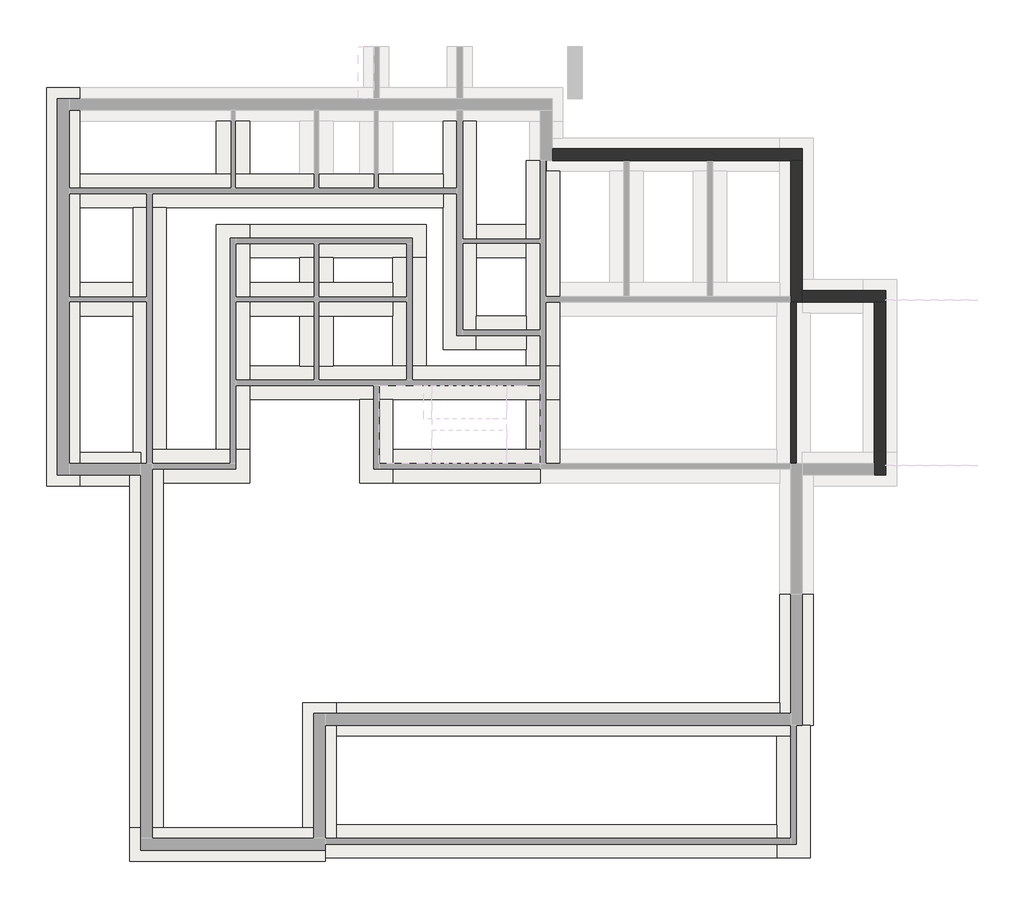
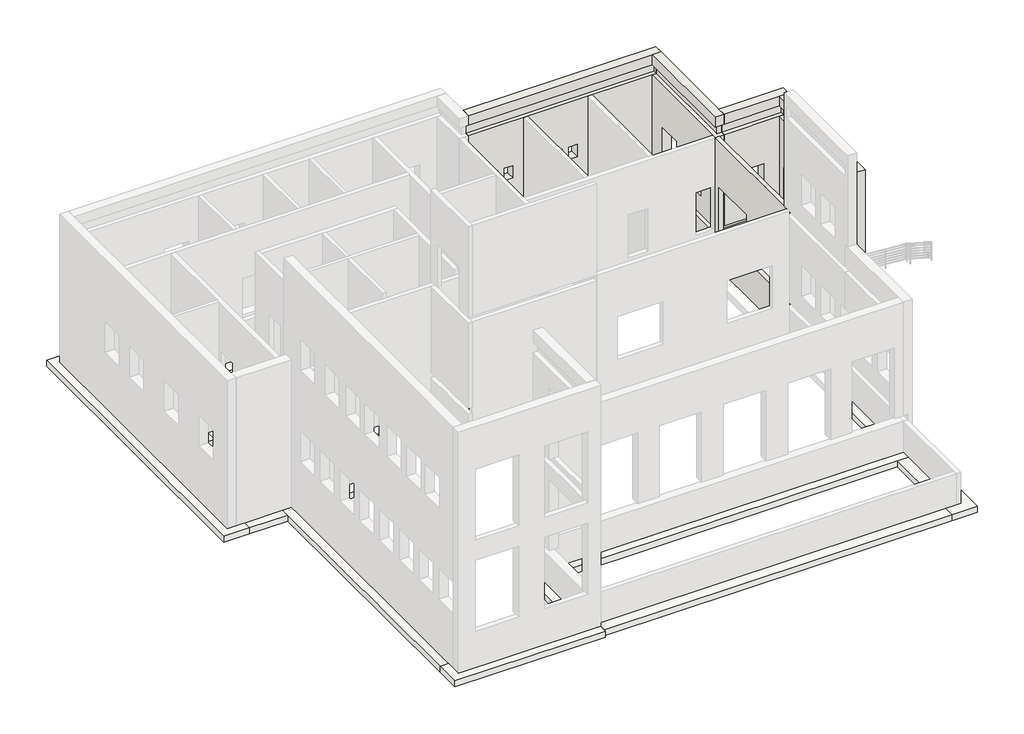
# One storey, part 3 of 5: 26 footings, 5 walls.
"""IFC4 building model written with IfcOpenShell, lengths in millimetres."""

from ifc_helpers import new_model, si_unit, frame, origin, place, context, project, spatial, polyline, outline, extrude, faceted_brep, element, save

model = new_model("IFC4")

# Units and contexts
model_context = context("Model", 3, world=origin())
ifc_project = project(units=[si_unit("LENGTHUNIT", "METRE", prefix="MILLI")], contexts=[model_context])

# Site, building, storey
site = spatial("IfcSite", under=ifc_project)
building = spatial("IfcBuilding", under=site)
storey = spatial("IfcBuildingStorey", under=building, Name="Фундамент", Elevation=-1800.0)

# Footings
placement = place(None, origin())
element("IfcFooting", 1, ObjectType="Опорная пята - 1200 x 300", at=placement, inside=storey, context=model_context, shape_type="Brep", body=[
    faceted_brep([(8252.7882356, 1082.3976828, -1800.0), (9452.7882356, 1082.3976828, -1800.0), (9452.7882356, 1082.3976828, -2100.0), (8252.7882356, 1082.3976828, -2100.0), (9452.7882356, -3627.6023172, -1800.0), (9342.7882356, -3627.6023172, -1800.0), (8794.5092705, -3627.6023172, -1800.0), (8252.7882356, -3627.6023172, -1800.0), (8252.7882356, -3627.6023172, -2100.0), (8794.5092705, -3627.6023172, -2100.0), (9342.7882356, -3627.6023172, -2100.0), (9452.7882356, -3627.6023172, -2100.0), (8252.7882356, -2817.6023172, -1800.0), (8252.7882356, -2817.6023172, -2100.0)], [[[0, 1, 2, 3]], [[4, 5, 6, 7, 8, 9, 10, 11]], [[0, 12, 7, 6, 5, 4, 1]], [[2, 1, 4, 11]], [[3, 2, 11, 10, 9, 8, 13]], [[0, 3, 13, 8, 7, 12]]]),
])
element("IfcFooting", 2, ObjectType="Опорная пята - 1200 x 300", at=placement, inside=storey, context=model_context, shape_type="Brep", body=[
    faceted_brep([(-16917.2117644, 4982.3976828, -1800.0), (-16917.2117644, 6182.3976828, -1800.0), (-16917.2117644, 11092.3976828, -1800.0), (-16917.2117644, 12292.3976828, -1800.0), (-16917.2117644, 14992.3976828, -1800.0), (-16917.2117644, 16192.3976828, -1800.0), (-16917.2117644, 18102.3976828, -1800.0), (-16917.2117644, 19302.3976828, -1800.0), (-18117.2117644, 19302.3976828, -1800.0), (-18117.2117644, 4982.3976828, -1800.0), (-18117.2117644, 4982.3976828, -2100.0), (-18117.2117644, 19302.3976828, -2100.0), (-16917.2117644, 4982.3976828, -2100.0), (-16917.2117644, 19302.3976828, -2100.0), (-16917.2117644, 18102.3976828, -2100.0), (-16917.2117644, 16192.3976828, -2100.0), (-16917.2117644, 14992.3976828, -2100.0), (-16917.2117644, 12292.3976828, -2100.0), (-16917.2117644, 11092.3976828, -2100.0), (-16917.2117644, 6182.3976828, -2100.0)], [[[0, 1, 2, 3, 4, 5, 6, 7, 8, 9]], [[10, 9, 8, 11]], [[12, 10, 11, 13, 14, 15, 16, 17, 18, 19]], [[0, 12, 19, 18, 17, 16, 15, 14, 13, 7, 6, 5, 4, 3, 2, 1]], [[8, 7, 13, 11]], [[0, 9, 10, 12]]]),
])
element("IfcFooting", 3, ObjectType="Опорная пята - 1200 x 300", at=placement, inside=storey, context=model_context, shape_type="Brep", body=[
    faceted_brep([(-8087.2117644, -7317.6023172, -1800.0), (-8087.2117644, -7707.6023172, -1800.0), (-8087.2117644, -8407.6023172, -1800.0), (-8087.2117644, -8517.6023172, -1800.0), (-8087.2117644, -8517.6023172, -2100.0), (-8087.2117644, -8407.6023172, -2100.0), (-8087.2117644, -7707.6023172, -2100.0), (-8087.2117644, -7317.6023172, -2100.0), (-8897.2117644, -7317.6023172, -1800.0), (-13917.2117644, -7317.6023172, -1800.0), (-15117.2117644, -7317.6023172, -1800.0), (-15117.2117644, -8517.6023172, -1800.0), (-15117.2117644, -8517.6023172, -2100.0), (-15117.2117644, -7317.6023172, -2100.0), (-13917.2117644, -7317.6023172, -2100.0), (-8897.2117644, -7317.6023172, -2100.0)], [[[0, 1, 2, 3, 4, 5, 6, 7]], [[0, 8, 9, 10, 11, 3, 2, 1]], [[4, 3, 11, 12]], [[7, 6, 5, 4, 12, 13, 14, 15]], [[0, 7, 15, 14, 13, 10, 9, 8]], [[11, 10, 13, 12]]]),
])
element("IfcFooting", 4, ObjectType="Опорная пята - 1200 x 300", at=placement, inside=storey, context=model_context, shape_type="Brep", body=[
    faceted_brep([(-15117.2117644, 5792.3976828, -2100.0), (-15117.2117644, 5792.3976828, -1800.0), (-14727.2117644, 5792.3976828, -1800.0), (-14307.2117644, 5792.3976828, -1800.0), (-13917.2117644, 5792.3976828, -1800.0), (-13917.2117644, 5792.3976828, -2100.0), (-14307.2117644, 5792.3976828, -2100.0), (-14727.2117644, 5792.3976828, -2100.0), (-15117.2117644, 4982.3976828, -1800.0), (-15117.2117644, -7317.6023172, -1800.0), (-13917.2117644, -7317.6023172, -1800.0), (-13917.2117644, 5092.3976828, -1800.0), (-15117.2117644, 4982.3976828, -2100.0), (-15117.2117644, -7317.6023172, -2100.0), (-13917.2117644, 5092.3976828, -2100.0), (-13917.2117644, -7317.6023172, -2100.0)], [[[0, 1, 2, 3, 4, 5, 6, 7]], [[4, 3, 2, 1, 8, 9, 10, 11]], [[1, 0, 12, 13, 9, 8]], [[0, 7, 6, 5, 14, 15, 13, 12]], [[5, 4, 11, 10, 15, 14]], [[10, 9, 13, 15]]]),
])
element("IfcFooting", 5, ObjectType="Опорная пята - 1200 x 300", at=placement, inside=storey, context=model_context, shape_type="Brep", body=[
    faceted_brep([(-14727.2117644, 6182.3976828, -2100.0), (-14727.2117644, 6182.3976828, -1800.0), (-14727.2117644, 5792.3976828, -1800.0), (-14727.2117644, 5792.3976828, -2100.0), (-15007.2117644, 6182.3976828, -1800.0), (-16917.2117644, 6182.3976828, -1800.0), (-16917.2117644, 4982.3976828, -1800.0), (-15117.2117644, 4982.3976828, -1800.0), (-15117.2117644, 5792.3976828, -1800.0), (-16917.2117644, 4982.3976828, -2100.0), (-15117.2117644, 4982.3976828, -2100.0), (-16917.2117644, 6182.3976828, -2100.0), (-15007.2117644, 6182.3976828, -2100.0), (-15117.2117644, 5792.3976828, -2100.0)], [[[0, 1, 2, 3]], [[1, 4, 5, 6, 7, 8, 2]], [[6, 9, 10, 7]], [[11, 12, 0, 3, 13, 10, 9]], [[1, 0, 12, 11, 5, 4]], [[6, 5, 11, 9]], [[8, 13, 3, 2]], [[13, 8, 7, 10]]]),
])
element("IfcFooting", 6, ObjectType="Опорная пята - 1200 x 300", at=placement, inside=storey, context=model_context, shape_type="Brep", body=[
    faceted_brep([(-14307.2117644, 6292.3976828, -1800.0), (-14307.2117644, 6292.3976828, -2100.0), (-14307.2117644, 5792.3976828, -2100.0), (-14307.2117644, 5792.3976828, -1800.0), (-10807.2117644, 6292.3976828, -1800.0), (-12007.2117644, 6292.3976828, -1800.0), (-13807.2117644, 6292.3976828, -1800.0), (-13917.2117644, 5792.3976828, -1800.0), (-13917.2117644, 5092.3976828, -1800.0), (-10807.2117644, 5092.3976828, -1800.0), (-10807.2117644, 6292.3976828, -2100.0), (-12007.2117644, 6292.3976828, -2100.0), (-13807.2117644, 6292.3976828, -2100.0), (-10807.2117644, 5092.3976828, -2100.0), (-13917.2117644, 5092.3976828, -2100.0), (-13917.2117644, 5792.3976828, -2100.0)], [[[0, 1, 2, 3]], [[4, 5, 6, 0, 3, 7, 8, 9]], [[1, 0, 6, 5, 4, 10, 11, 12]], [[1, 12, 11, 10, 13, 14, 15, 2]], [[13, 9, 8, 14]], [[4, 9, 13, 10]], [[15, 7, 3, 2]], [[7, 15, 14, 8]]]),
])
element("IfcFooting", 7, ObjectType="Опорная пята - 1200 x 300", at=placement, inside=storey, context=model_context, shape_type="Brep", body=[
    faceted_brep([(-10807.2117644, 14392.3976828, -1800.0), (-12007.2117644, 14392.3976828, -1800.0), (-12007.2117644, 6292.3976828, -1800.0), (-10807.2117644, 6292.3976828, -1800.0), (-10807.2117644, 8092.3976828, -1800.0), (-10807.2117644, 9292.3976828, -1800.0), (-10807.2117644, 11092.3976828, -1800.0), (-10807.2117644, 12292.3976828, -1800.0), (-10807.2117644, 13192.3976828, -1800.0), (-12007.2117644, 14392.3976828, -2100.0), (-12007.2117644, 6292.3976828, -2100.0), (-10807.2117644, 14392.3976828, -2100.0), (-10807.2117644, 13192.3976828, -2100.0), (-10807.2117644, 12292.3976828, -2100.0), (-10807.2117644, 11092.3976828, -2100.0), (-10807.2117644, 9292.3976828, -2100.0), (-10807.2117644, 8092.3976828, -2100.0), (-10807.2117644, 6292.3976828, -2100.0)], [[[0, 1, 2, 3, 4, 5, 6, 7, 8]], [[1, 9, 10, 2]], [[9, 11, 12, 13, 14, 15, 16, 17, 10]], [[11, 0, 8, 7, 6, 5, 4, 3, 17, 16, 15, 14, 13, 12]], [[1, 0, 11, 9]], [[3, 2, 10, 17]]]),
])
element("IfcFooting", 8, ObjectType="Опорная пята - 1200 x 300", at=placement, inside=storey, context=model_context, shape_type="Brep", body=[
    faceted_brep([(-10807.2117644, 8092.3976828, -1800.0), (-6857.2117644, 8092.3976828, -1800.0), (-5657.2117644, 8092.3976828, -1800.0), (-857.2117644, 8092.3976828, -1800.0), (342.7882356, 8092.3976828, -1800.0), (342.7882356, 9292.3976828, -1800.0), (-857.2117644, 9292.3976828, -1800.0), (-4457.2117644, 9292.3976828, -1800.0), (-5657.2117644, 9292.3976828, -1800.0), (-7807.2117644, 9292.3976828, -1800.0), (-9007.2117644, 9292.3976828, -1800.0), (-10807.2117644, 9292.3976828, -1800.0), (-10807.2117644, 9292.3976828, -2100.0), (342.7882356, 9292.3976828, -2100.0), (-857.2117644, 9292.3976828, -2100.0), (-4457.2117644, 9292.3976828, -2100.0), (-5657.2117644, 9292.3976828, -2100.0), (-7807.2117644, 9292.3976828, -2100.0), (-9007.2117644, 9292.3976828, -2100.0), (-10807.2117644, 8092.3976828, -2100.0), (342.7882356, 8092.3976828, -2100.0), (-857.2117644, 8092.3976828, -2100.0), (-5657.2117644, 8092.3976828, -2100.0), (-6857.2117644, 8092.3976828, -2100.0)], [[[0, 1, 2, 3, 4, 5, 6, 7, 8, 9, 10, 11]], [[12, 11, 10, 9, 8, 7, 6, 5, 13, 14, 15, 16, 17, 18]], [[19, 12, 18, 17, 16, 15, 14, 13, 20, 21, 22, 23]], [[0, 19, 23, 22, 21, 20, 4, 3, 2, 1]], [[0, 11, 12, 19]], [[5, 4, 20, 13]]]),
])
element("IfcFooting", 9, ObjectType="Опорная пята - 1200 x 300", at=placement, inside=storey, context=model_context, shape_type="Brep", body=[
    faceted_brep([(-6857.2117644, 8092.3976828, -1800.0), (-6857.2117644, 5092.3976828, -1800.0), (-5657.2117644, 5092.3976828, -1800.0), (-5657.2117644, 6292.3976828, -1800.0), (-5657.2117644, 8092.3976828, -1800.0), (-5657.2117644, 8092.3976828, -2100.0), (-5657.2117644, 5092.3976828, -2100.0), (-5657.2117644, 6292.3976828, -2100.0), (-6857.2117644, 8092.3976828, -2100.0), (-6857.2117644, 5092.3976828, -2100.0)], [[[0, 1, 2, 3, 4]], [[5, 4, 3, 2, 6, 7]], [[8, 5, 7, 6, 9]], [[0, 8, 9, 1]], [[0, 4, 5, 8]], [[2, 1, 9, 6]]]),
])
element("IfcFooting", 10, ObjectType="Опорная пята - 1200 x 300", at=placement, inside=storey, context=model_context, shape_type="Brep", body=[
    faceted_brep([(-357.2117644, 6292.3976828, -2100.0), (-357.2117644, 6292.3976828, -1800.0), (-357.2117644, 5792.3976828, -1800.0), (-357.2117644, 5092.3976828, -1800.0), (-357.2117644, 5092.3976828, -2100.0), (-357.2117644, 5792.3976828, -2100.0), (-857.2117644, 6292.3976828, -1800.0), (-5657.2117644, 6292.3976828, -1800.0), (-5657.2117644, 5092.3976828, -1800.0), (-857.2117644, 6292.3976828, -2100.0), (-5657.2117644, 6292.3976828, -2100.0), (-5657.2117644, 5092.3976828, -2100.0)], [[[0, 1, 2, 3, 4, 5]], [[3, 2, 1, 6, 7, 8]], [[1, 0, 9, 10, 7, 6]], [[0, 5, 4, 11, 10, 9]], [[4, 3, 8, 11]], [[8, 7, 10, 11]]]),
])
element("IfcFooting", 11, ObjectType="Опорная пята - 1200 x 300", at=placement, inside=storey, context=model_context, shape_type="Brep", body=[
    faceted_brep([(342.7882356, 5792.3976828, -2100.0), (342.7882356, 5792.3976828, -1800.0), (-157.2117644, 5792.3976828, -1800.0), (-357.2117644, 5792.3976828, -1800.0), (-357.2117644, 5792.3976828, -2100.0), (342.7882356, 6292.3976828, -1800.0), (342.7882356, 8092.3976828, -1800.0), (-857.2117644, 8092.3976828, -1800.0), (-857.2117644, 6292.3976828, -1800.0), (-357.2117644, 6292.3976828, -1800.0), (-857.2117644, 8092.3976828, -2100.0), (-857.2117644, 6292.3976828, -2100.0), (342.7882356, 8092.3976828, -2100.0), (342.7882356, 6292.3976828, -2100.0), (-357.2117644, 6292.3976828, -2100.0)], [[[0, 1, 2, 3, 4]], [[1, 5, 6, 7, 8, 9, 3, 2]], [[7, 10, 11, 8]], [[12, 13, 0, 4, 14, 11, 10]], [[1, 0, 13, 12, 6, 5]], [[7, 6, 12, 10]], [[9, 14, 4, 3]], [[14, 9, 8, 11]]]),
    faceted_brep([(-857.2117644, 16692.3976828, -2100.0), (-857.2117644, 16692.3976828, -1800.0), (-747.2117644, 16692.3976828, -1800.0), (-357.2117644, 16692.3976828, -1800.0), (-157.2117644, 16692.3976828, -1800.0), (-149.2724245, 16692.3976828, -1800.0), (-149.2724245, 16692.3976828, -2100.0), (-747.2117644, 16692.3976828, -2100.0), (-857.2117644, 14392.3976828, -1800.0), (-857.2117644, 13192.3976828, -1800.0), (-857.2117644, 11092.3976828, -1800.0), (-857.2117644, 9892.3976828, -1800.0), (-857.2117644, 9292.3976828, -1800.0), (342.7882356, 9292.3976828, -1800.0), (342.7882356, 11092.3976828, -1800.0), (342.7882356, 12292.3976828, -1800.0), (342.7882356, 16302.3976828, -1800.0), (-153.0993647, 16302.3976828, -1800.0), (-857.2117644, 14392.3976828, -2100.0), (-857.2117644, 13192.3976828, -2100.0), (-857.2117644, 11092.3976828, -2100.0), (-857.2117644, 9892.3976828, -2100.0), (-857.2117644, 9292.3976828, -2100.0), (-153.0993647, 16302.3976828, -2100.0), (342.7882356, 16302.3976828, -2100.0), (342.7882356, 12292.3976828, -2100.0), (342.7882356, 11092.3976828, -2100.0), (342.7882356, 9292.3976828, -2100.0)], [[[0, 1, 2, 3, 4, 5, 6, 7]], [[5, 4, 3, 2, 1, 8, 9, 10, 11, 12, 13, 14, 15, 16, 17]], [[1, 0, 18, 19, 20, 21, 22, 12, 11, 10, 9, 8]], [[0, 7, 6, 23, 24, 25, 26, 27, 22, 21, 20, 19, 18]], [[24, 16, 15, 14, 13, 27, 26, 25]], [[23, 17, 16, 24]], [[17, 23, 6, 5]], [[13, 12, 22, 27]]]),
])
element("IfcFooting", 12, ObjectType="Опорная пята - 1200 x 300", at=placement, inside=storey, context=model_context, shape_type="Brep", body=[
    faceted_brep([(-4457.2117644, 13192.3976828, -1800.0), (-4457.2117644, 14392.3976828, -1800.0), (-10807.2117644, 14392.3976828, -1800.0), (-10807.2117644, 13192.3976828, -1800.0), (-9007.2117644, 13192.3976828, -1800.0), (-7807.2117644, 13192.3976828, -1800.0), (-5657.2117644, 13192.3976828, -1800.0), (-4457.2117644, 14392.3976828, -2100.0), (-10807.2117644, 14392.3976828, -2100.0), (-4457.2117644, 13192.3976828, -2100.0), (-5657.2117644, 13192.3976828, -2100.0), (-7807.2117644, 13192.3976828, -2100.0), (-9007.2117644, 13192.3976828, -2100.0), (-10807.2117644, 13192.3976828, -2100.0)], [[[0, 1, 2, 3, 4, 5, 6]], [[1, 7, 8, 2]], [[7, 9, 10, 11, 12, 13, 8]], [[9, 0, 6, 5, 4, 3, 13, 12, 11, 10]], [[1, 0, 9, 7]], [[3, 2, 8, 13]]]),
])
element("IfcFooting", 13, ObjectType="Опорная пята - 1200 x 300", at=placement, inside=storey, context=model_context, shape_type="Brep", body=[
    faceted_brep([(-5657.2117644, 9292.3976828, -1800.0), (-4457.2117644, 9292.3976828, -1800.0), (-4457.2117644, 13192.3976828, -1800.0), (-5657.2117644, 13192.3976828, -1800.0), (-5657.2117644, 12292.3976828, -1800.0), (-5657.2117644, 11092.3976828, -1800.0), (-4457.2117644, 9292.3976828, -2100.0), (-4457.2117644, 13192.3976828, -2100.0), (-5657.2117644, 9292.3976828, -2100.0), (-5657.2117644, 11092.3976828, -2100.0), (-5657.2117644, 12292.3976828, -2100.0), (-5657.2117644, 13192.3976828, -2100.0)], [[[0, 1, 2, 3, 4, 5]], [[1, 6, 7, 2]], [[6, 8, 9, 10, 11, 7]], [[8, 0, 5, 4, 3, 11, 10, 9]], [[1, 0, 8, 6]], [[3, 2, 7, 11]]]),
])
element("IfcFooting", 14, ObjectType="Опорная пята - 1200 x 300", at=placement, inside=storey, context=model_context, shape_type="Brep", body=[
    faceted_brep([(-14727.2117644, 5792.3976828, -1800.0), (-14727.2117644, 5792.3976828, -2100.0), (-14307.2117644, 5792.3976828, -2100.0), (-14307.2117644, 5792.3976828, -1800.0), (-13807.2117644, 14992.3976828, -1800.0), (-15007.2117644, 14992.3976828, -1800.0), (-15007.2117644, 12292.3976828, -1800.0), (-15007.2117644, 11092.3976828, -1800.0), (-15007.2117644, 6182.3976828, -1800.0), (-14727.2117644, 6182.3976828, -1800.0), (-14307.2117644, 6292.3976828, -1800.0), (-13807.2117644, 6292.3976828, -1800.0), (-15007.2117644, 14992.3976828, -2100.0), (-15007.2117644, 12292.3976828, -2100.0), (-15007.2117644, 11092.3976828, -2100.0), (-15007.2117644, 6182.3976828, -2100.0), (-13807.2117644, 14992.3976828, -2100.0), (-13807.2117644, 6292.3976828, -2100.0), (-14307.2117644, 6292.3976828, -2100.0), (-14727.2117644, 6182.3976828, -2100.0)], [[[0, 1, 2, 3]], [[4, 5, 6, 7, 8, 9, 0, 3, 10, 11]], [[5, 12, 13, 14, 15, 8, 7, 6]], [[12, 16, 17, 18, 2, 1, 19, 15, 14, 13]], [[16, 4, 11, 17]], [[5, 4, 16, 12]], [[9, 19, 1, 0]], [[19, 9, 8, 15]], [[18, 10, 3, 2]], [[10, 18, 17, 11]]]),
])
element("IfcFooting", 15, ObjectType="Опорная пята - 1200 x 300", at=placement, inside=storey, context=model_context, shape_type="Brep", body=[
    faceted_brep([(-16917.2117644, 14992.3976828, -1800.0), (-15007.2117644, 14992.3976828, -1800.0), (-13807.2117644, 14992.3976828, -1800.0), (-3857.2117644, 14992.3976828, -1800.0), (-3857.2117644, 16192.3976828, -1800.0), (-5657.2117644, 16192.3976828, -1800.0), (-6857.2117644, 16192.3976828, -1800.0), (-7807.2117644, 16192.3976828, -1800.0), (-9007.2117644, 16192.3976828, -1800.0), (-10807.2117644, 16192.3976828, -1800.0), (-12007.2117644, 16192.3976828, -1800.0), (-16917.2117644, 16192.3976828, -1800.0), (-16917.2117644, 16192.3976828, -2100.0), (-3857.2117644, 16192.3976828, -2100.0), (-5657.2117644, 16192.3976828, -2100.0), (-6857.2117644, 16192.3976828, -2100.0), (-7807.2117644, 16192.3976828, -2100.0), (-9007.2117644, 16192.3976828, -2100.0), (-10807.2117644, 16192.3976828, -2100.0), (-12007.2117644, 16192.3976828, -2100.0), (-16917.2117644, 14992.3976828, -2100.0), (-3857.2117644, 14992.3976828, -2100.0), (-13807.2117644, 14992.3976828, -2100.0), (-15007.2117644, 14992.3976828, -2100.0)], [[[0, 1, 2, 3, 4, 5, 6, 7, 8, 9, 10, 11]], [[12, 11, 10, 9, 8, 7, 6, 5, 4, 13, 14, 15, 16, 17, 18, 19]], [[20, 12, 19, 18, 17, 16, 15, 14, 13, 21, 22, 23]], [[0, 20, 23, 22, 21, 3, 2, 1]], [[0, 11, 12, 20]], [[4, 3, 21, 13]]]),
])
element("IfcFooting", 16, ObjectType="Опорная пята - 1200 x 300", at=placement, inside=storey, context=model_context, shape_type="Brep", body=[
    faceted_brep([(-3857.2117644, 18102.3976828, -1800.0), (-3857.2117644, 16192.3976828, -1800.0), (-3857.2117644, 14992.3976828, -1800.0), (-3857.2117644, 9892.3976828, -1800.0), (-2657.2117644, 9892.3976828, -1800.0), (-2657.2117644, 11092.3976828, -1800.0), (-2657.2117644, 13192.3976828, -1800.0), (-2657.2117644, 14392.3976828, -1800.0), (-2657.2117644, 18102.3976828, -1800.0), (-2657.2117644, 18102.3976828, -2100.0), (-2657.2117644, 9892.3976828, -2100.0), (-2657.2117644, 11092.3976828, -2100.0), (-2657.2117644, 13192.3976828, -2100.0), (-2657.2117644, 14392.3976828, -2100.0), (-3857.2117644, 18102.3976828, -2100.0), (-3857.2117644, 9892.3976828, -2100.0), (-3857.2117644, 14992.3976828, -2100.0), (-3857.2117644, 16192.3976828, -2100.0)], [[[0, 1, 2, 3, 4, 5, 6, 7, 8]], [[9, 8, 7, 6, 5, 4, 10, 11, 12, 13]], [[14, 9, 13, 12, 11, 10, 15, 16, 17]], [[0, 14, 17, 16, 15, 3, 2, 1]], [[0, 8, 9, 14]], [[4, 3, 15, 10]]]),
])
element("IfcFooting", 17, ObjectType="Опорная пята - 1200 x 300", at=placement, inside=storey, context=model_context, shape_type="SweptSolid", body=[
    extrude(outline(polyline([(-857.2117644, 11092.3976828), (-857.2117644, 9892.3976828), (-2657.2117644, 9892.3976828), (-2657.2117644, 11092.3976828), (-857.2117644, 11092.3976828)])), frame((0.0, 0.0, -2100.0), z_axis=(0.0, 0.0, 1.0), x_axis=(1.0, 0.0, 0.0)), (0.0, 0.0, 1.0), 300.0),
])
element("IfcFooting", 18, ObjectType="Опорная пята - 1200 x 300", at=placement, inside=storey, context=model_context, shape_type="SweptSolid", body=[
    extrude(outline(polyline([(-16917.2117644, 11092.3976828), (-16917.2117644, 12292.3976828), (-15007.2117644, 12292.3976828), (-15007.2117644, 11092.3976828), (-16917.2117644, 11092.3976828)])), frame((0.0, 0.0, -2100.0), z_axis=(0.0, 0.0, 1.0), x_axis=(1.0, 0.0, 0.0)), (0.0, 0.0, 1.0), 300.0),
])
element("IfcFooting", 19, ObjectType="Опорная пята - 1200 x 300", at=placement, inside=storey, context=model_context, shape_type="SweptSolid", body=[
    extrude(outline(polyline([(-12007.2117644, 18102.3976828), (-10807.2117644, 18102.3976828), (-10807.2117644, 16192.3976828), (-12007.2117644, 16192.3976828), (-12007.2117644, 18102.3976828)])), frame((0.0, 0.0, -2100.0), z_axis=(0.0, 0.0, 1.0), x_axis=(1.0, 0.0, 0.0)), (0.0, 0.0, 1.0), 300.0),
])
element("IfcFooting", 20, ObjectType="Опорная пята - 1200 x 300", at=placement, inside=storey, context=model_context, shape_type="SweptSolid", body=[
    extrude(outline(polyline([(-857.2117644, 14392.3976828), (-857.2117644, 13192.3976828), (-2657.2117644, 13192.3976828), (-2657.2117644, 14392.3976828), (-857.2117644, 14392.3976828)])), frame((0.0, 0.0, -2100.0), z_axis=(0.0, 0.0, 1.0), x_axis=(1.0, 0.0, 0.0)), (0.0, 0.0, 1.0), 300.0),
])
element("IfcFooting", 21, ObjectType="Опорная пята - 1200 x 300", at=placement, inside=storey, context=model_context, shape_type="Brep", body=[
    faceted_brep([(-10807.2117644, 11092.3976828, -1800.0), (-9007.2117644, 11092.3976828, -1800.0), (-7807.2117644, 11092.3976828, -1800.0), (-5657.2117644, 11092.3976828, -1800.0), (-5657.2117644, 12292.3976828, -1800.0), (-7807.2117644, 12292.3976828, -1800.0), (-9007.2117644, 12292.3976828, -1800.0), (-10807.2117644, 12292.3976828, -1800.0), (-10807.2117644, 12292.3976828, -2100.0), (-5657.2117644, 12292.3976828, -2100.0), (-7807.2117644, 12292.3976828, -2100.0), (-9007.2117644, 12292.3976828, -2100.0), (-10807.2117644, 11092.3976828, -2100.0), (-5657.2117644, 11092.3976828, -2100.0), (-7807.2117644, 11092.3976828, -2100.0), (-9007.2117644, 11092.3976828, -2100.0)], [[[0, 1, 2, 3, 4, 5, 6, 7]], [[8, 7, 6, 5, 4, 9, 10, 11]], [[12, 8, 11, 10, 9, 13, 14, 15]], [[0, 12, 15, 14, 13, 3, 2, 1]], [[0, 7, 8, 12]], [[4, 3, 13, 9]]]),
])
element("IfcFooting", 22, ObjectType="Опорная пята - 1200 x 300", at=placement, inside=storey, context=model_context, shape_type="SweptSolid", body=[
    extrude(outline(polyline([(-7807.2117644, 9292.3976828), (-9007.2117644, 9292.3976828), (-9007.2117644, 11092.3976828), (-7807.2117644, 11092.3976828), (-7807.2117644, 9292.3976828)])), frame((0.0, 0.0, -2100.0), z_axis=(0.0, 0.0, 1.0), x_axis=(1.0, 0.0, 0.0)), (0.0, 0.0, 1.0), 300.0),
    extrude(outline(polyline([(-9007.2117644, 13192.3976828), (-7807.2117644, 13192.3976828), (-7807.2117644, 12292.3976828), (-9007.2117644, 12292.3976828), (-9007.2117644, 13192.3976828)])), frame((0.0, 0.0, -2100.0), z_axis=(0.0, 0.0, 1.0), x_axis=(1.0, 0.0, 0.0)), (0.0, 0.0, 1.0), 300.0),
])
element("IfcFooting", 23, ObjectType="Опорная пята - 1200 x 300", at=placement, inside=storey, context=model_context, shape_type="Brep", body=[
    faceted_brep([(-7697.2117644, -7707.6023172, -2100.0), (-7697.2117644, -7707.6023172, -1800.0), (-8087.2117644, -7707.6023172, -1800.0), (-8087.2117644, -7707.6023172, -2100.0), (-7697.2117644, -7207.6023172, -1800.0), (-7697.2117644, -4017.6023172, -1800.0), (-7697.2117644, -2817.6023172, -1800.0), (-8897.2117644, -2817.6023172, -1800.0), (-8897.2117644, -7317.6023172, -1800.0), (-8087.2117644, -7317.6023172, -1800.0), (-8897.2117644, -2817.6023172, -2100.0), (-8897.2117644, -7317.6023172, -2100.0), (-7697.2117644, -2817.6023172, -2100.0), (-7697.2117644, -4017.6023172, -2100.0), (-7697.2117644, -7207.6023172, -2100.0), (-8087.2117644, -7317.6023172, -2100.0)], [[[0, 1, 2, 3]], [[1, 4, 5, 6, 7, 8, 9, 2]], [[7, 10, 11, 8]], [[12, 13, 14, 0, 3, 15, 11, 10]], [[1, 0, 14, 13, 12, 6, 5, 4]], [[7, 6, 12, 10]], [[9, 15, 3, 2]], [[15, 9, 8, 11]]]),
])
element("IfcFooting", 24, ObjectType="Опорная пята - 1200 x 300", at=placement, inside=storey, context=model_context, shape_type="Brep", body=[
    faceted_brep([(8789.6836237, -4017.6023172, -1800.0), (8794.5092705, -3627.6023172, -1800.0), (8252.7882356, -3627.6023172, -1800.0), (8252.7882356, -2817.6023172, -1800.0), (-7697.2117644, -2817.6023172, -1800.0), (-7697.2117644, -4017.6023172, -1800.0), (8142.7882356, -4017.6023172, -1800.0), (8252.7882356, -2817.6023172, -2100.0), (-7697.2117644, -2817.6023172, -2100.0), (8794.5092705, -3627.6023172, -2100.0), (8789.6836237, -4017.6023172, -2100.0), (8142.7882356, -4017.6023172, -2100.0), (-7697.2117644, -4017.6023172, -2100.0), (8252.7882356, -3627.6023172, -2100.0)], [[[0, 1, 2, 3, 4, 5, 6]], [[3, 7, 8, 4]], [[9, 10, 11, 12, 8, 7, 13]], [[10, 0, 6, 5, 12, 11]], [[0, 10, 9, 1]], [[13, 2, 1, 9]], [[2, 13, 7, 3]], [[5, 4, 8, 12]]]),
])
element("IfcFooting", 25, ObjectType="Опорная пята - 1200 x 300", at=placement, inside=storey, context=model_context, shape_type="Brep", body=[
    faceted_brep([(9342.7882356, -3627.6023172, -1800.0), (9342.7882356, -3627.6023172, -2100.0), (8794.5092705, -3627.6023172, -2100.0), (8794.5092705, -3627.6023172, -1800.0), (9342.7882356, -8407.6023172, -1800.0), (8789.6836237, -4017.6023172, -1800.0), (8142.7882356, -4017.6023172, -1800.0), (8142.7882356, -7207.6023172, -1800.0), (8142.7882356, -8407.6023172, -1800.0), (9342.7882356, -8407.6023172, -2100.0), (8142.7882356, -8407.6023172, -2100.0), (8142.7882356, -7207.6023172, -2100.0), (8142.7882356, -4017.6023172, -2100.0), (8789.6836237, -4017.6023172, -2100.0)], [[[0, 1, 2, 3]], [[4, 0, 3, 5, 6, 7, 8]], [[1, 0, 4, 9]], [[1, 9, 10, 11, 12, 13, 2]], [[10, 8, 7, 6, 12, 11]], [[4, 8, 10, 9]], [[5, 13, 12, 6]], [[13, 5, 3, 2]]]),
])
element("IfcFooting", 26, ObjectType="Опорная пята - 1200 x 300", at=placement, inside=storey, context=model_context, shape_type="SweptSolid", body=[
    extrude(outline(polyline([(-8087.2117644, -8407.6023172), (-8087.2117644, -7707.6023172), (-7697.2117644, -7707.6023172), (-7697.2117644, -7207.6023172), (8142.7882356, -7207.6023172), (8142.7882356, -8407.6023172), (-8087.2117644, -8407.6023172)])), frame((0.0, 0.0, -2100.0), z_axis=(0.0, 0.0, 1.0), x_axis=(1.0, 0.0, 0.0)), (0.0, 0.0, 1.0), 300.0),
])

# Walls
element("IfcWall", 27, ObjectType="_ЖБ-200_У-100_К-120", at=placement, inside=storey, context=model_context, shape_type="Brep", body=[
    faceted_brep([(62.7882356, 16692.3976828, -1800.0), (8642.7882356, 16692.3976828, -1800.0), (9062.7882356, 16692.3976828, -1800.0), (9062.7882356, 16692.3976828, 5500.0), (8642.7882356, 16692.3976828, 5500.0), (62.7882356, 16692.3976828, 5500.0), (62.7882356, 16692.3976828, 5015.0), (8642.7882356, 16692.3976828, 5015.0), (8842.7882356, 16692.3976828, 5015.0), (8842.7882356, 16692.3976828, 4500.0), (8642.7882356, 16692.3976828, 4500.0), (62.7882356, 16692.3976828, 4500.0), (62.7882356, 16692.3976828, 0.0), (8642.7882356, 16692.3976828, 0.0), (8842.7882356, 16692.3976828, 0.0), (8842.7882356, 16692.3976828, -270.0), (8642.7882356, 16692.3976828, -270.0), (62.7882356, 16692.3976828, -270.0), (3342.7882356, 16692.3976828, 1700.0), (3342.7882356, 16692.3976828, 2300.0), (3742.7882356, 16692.3976828, 2300.0), (3742.7882356, 16692.3976828, 1700.0), (4042.7882356, 16692.3976828, 1700.0), (4042.7882356, 16692.3976828, 2300.0), (4442.7882356, 16692.3976828, 2300.0), (4442.7882356, 16692.3976828, 1700.0), (4742.7882356, 16692.3976828, 1700.0), (4742.7882356, 16692.3976828, 2300.0), (5142.7882356, 16692.3976828, 2300.0), (5142.7882356, 16692.3976828, 1700.0), (342.7882356, 16692.3976828, 1700.0), (342.7882356, 16692.3976828, 2300.0), (742.7882356, 16692.3976828, 2300.0), (742.7882356, 16692.3976828, 1700.0), (1042.7882356, 16692.3976828, 1700.0), (1042.7882356, 16692.3976828, 2300.0), (1442.7882356, 16692.3976828, 2300.0), (1442.7882356, 16692.3976828, 1700.0), (1742.7882356, 16692.3976828, 1700.0), (1742.7882356, 16692.3976828, 2300.0), (2142.7882356, 16692.3976828, 2300.0), (2142.7882356, 16692.3976828, 1700.0), (9062.7882356, 17112.3976828, -1800.0), (62.7882356, 17112.3976828, -1800.0), (62.7882356, 17112.3976828, 5500.0), (9062.7882356, 17112.3976828, 5500.0), (3342.7882356, 17112.3976828, 2300.0), (3342.7882356, 17112.3976828, 1700.0), (3742.7882356, 17112.3976828, 1700.0), (3742.7882356, 17112.3976828, 2300.0), (4042.7882356, 17112.3976828, 2300.0), (4042.7882356, 17112.3976828, 1700.0), (4442.7882356, 17112.3976828, 1700.0), (4442.7882356, 17112.3976828, 2300.0), (4742.7882356, 17112.3976828, 2300.0), (4742.7882356, 17112.3976828, 1700.0), (5142.7882356, 17112.3976828, 1700.0), (5142.7882356, 17112.3976828, 2300.0), (342.7882356, 17112.3976828, 2300.0), (342.7882356, 17112.3976828, 1700.0), (742.7882356, 17112.3976828, 1700.0), (742.7882356, 17112.3976828, 2300.0), (1042.7882356, 17112.3976828, 2300.0), (1042.7882356, 17112.3976828, 1700.0), (1442.7882356, 17112.3976828, 1700.0), (1442.7882356, 17112.3976828, 2300.0), (1742.7882356, 17112.3976828, 2300.0), (1742.7882356, 17112.3976828, 1700.0), (2142.7882356, 17112.3976828, 1700.0), (2142.7882356, 17112.3976828, 2300.0), (8842.7882356, 16892.3976828, -270.0), (62.7882356, 16892.3976828, -270.0), (62.7882356, 16892.3976828, 0.0), (8842.7882356, 16892.3976828, 0.0), (62.7882356, 16892.3976828, 4500.0), (62.7882356, 16892.3976828, 5015.0), (8842.7882356, 16892.3976828, 4500.0), (8842.7882356, 16892.3976828, 5015.0)], [[[0, 1, 2, 3, 4, 5, 6, 7, 8, 9, 10, 11, 12, 13, 14, 15, 16, 17], [18, 19, 20, 21], [22, 23, 24, 25], [26, 27, 28, 29], [30, 31, 32, 33], [34, 35, 36, 37], [38, 39, 40, 41]], [[42, 43, 44, 45], [46, 47, 48, 49], [50, 51, 52, 53], [54, 55, 56, 57], [58, 59, 60, 61], [62, 63, 64, 65], [66, 67, 68, 69]], [[2, 1, 0, 43, 42]], [[5, 4, 3, 45, 44]], [[3, 2, 42, 45]], [[15, 70, 71, 17, 16]], [[72, 73, 14, 13, 12]], [[70, 73, 72, 71]], [[73, 70, 15, 14]], [[5, 44, 43, 0, 17, 71, 72, 12, 11, 74, 75, 6]], [[9, 76, 74, 11, 10]], [[75, 77, 8, 7, 6]], [[77, 76, 9, 8]], [[76, 77, 75, 74]], [[19, 18, 47, 46]], [[20, 19, 46, 49]], [[21, 20, 49, 48]], [[18, 21, 48, 47]], [[23, 22, 51, 50]], [[24, 23, 50, 53]], [[25, 24, 53, 52]], [[22, 25, 52, 51]], [[27, 26, 55, 54]], [[28, 27, 54, 57]], [[29, 28, 57, 56]], [[26, 29, 56, 55]], [[31, 30, 59, 58]], [[32, 31, 58, 61]], [[33, 32, 61, 60]], [[30, 33, 60, 59]], [[35, 34, 63, 62]], [[36, 35, 62, 65]], [[37, 36, 65, 64]], [[34, 37, 64, 63]], [[39, 38, 67, 66]], [[40, 39, 66, 69]], [[41, 40, 69, 68]], [[38, 41, 68, 67]]]),
])
element("IfcWall", 28, ObjectType="_ЖБ-200_У-100_К-120", at=placement, inside=storey, context=model_context, shape_type="Brep", body=[
    faceted_brep([(8642.7882356, 16692.3976828, -1800.0), (8642.7882356, 11592.3976828, -1800.0), (8642.7882356, 11592.3976828, -270.0), (8642.7882356, 16692.3976828, -270.0), (8642.7882356, 11592.3976828, 5500.0), (8642.7882356, 16692.3976828, 5500.0), (8642.7882356, 16692.3976828, 5015.0), (8642.7882356, 11592.3976828, 5015.0), (8642.7882356, 16692.3976828, 0.0), (8642.7882356, 11592.3976828, 0.0), (8642.7882356, 11592.3976828, 4500.0), (8642.7882356, 16692.3976828, 4500.0), (8642.7882356, 13852.3976828, 915.0), (8642.7882356, 13852.3976828, 2415.0), (8642.7882356, 12752.3976828, 2415.0), (8642.7882356, 12752.3976828, 915.0), (8642.7882356, 15852.3976828, 915.0), (8642.7882356, 15852.3976828, 2415.0), (8642.7882356, 14752.3976828, 2415.0), (8642.7882356, 14752.3976828, 915.0), (9062.7882356, 11592.3976828, -1800.0), (9062.7882356, 12012.3976828, -1800.0), (9062.7882356, 16692.3976828, -1800.0), (9062.7882356, 16692.3976828, 5500.0), (9062.7882356, 12012.3976828, 5500.0), (9062.7882356, 11592.3976828, 5500.0), (9062.7882356, 11592.3976828, 5015.0), (9062.7882356, 11792.3976828, 5015.0), (9062.7882356, 11792.3976828, 4500.0), (9062.7882356, 11592.3976828, 4500.0), (9062.7882356, 11592.3976828, 0.0), (9062.7882356, 11792.3976828, 0.0), (9062.7882356, 11792.3976828, -270.0), (9062.7882356, 11592.3976828, -270.0), (9062.7882356, 13852.3976828, 2415.0), (9062.7882356, 13852.3976828, 915.0), (9062.7882356, 12752.3976828, 915.0), (9062.7882356, 12752.3976828, 2415.0), (9062.7882356, 15852.3976828, 2415.0), (9062.7882356, 15852.3976828, 915.0), (9062.7882356, 14752.3976828, 915.0), (9062.7882356, 14752.3976828, 2415.0), (8842.7882356, 16692.3976828, -270.0), (8842.7882356, 16692.3976828, 0.0), (8842.7882356, 16692.3976828, 4500.0), (8842.7882356, 16692.3976828, 5015.0), (8842.7882356, 11792.3976828, -270.0), (8842.7882356, 11792.3976828, 0.0), (8842.7882356, 11792.3976828, 4500.0), (8842.7882356, 11792.3976828, 5015.0)], [[[0, 1, 2, 3]], [[4, 5, 6, 7]], [[8, 9, 10, 11], [12, 13, 14, 15], [16, 17, 18, 19]], [[20, 21, 22, 23, 24, 25, 26, 27, 28, 29, 30, 31, 32, 33], [34, 35, 36, 37], [38, 39, 40, 41]], [[1, 0, 22, 21, 20]], [[5, 4, 25, 24, 23]], [[5, 23, 22, 0, 3, 42, 43, 8, 11, 44, 45, 6]], [[32, 46, 42, 3, 2, 33]], [[43, 47, 31, 30, 9, 8]], [[46, 47, 43, 42]], [[47, 46, 32, 31]], [[1, 20, 33, 2]], [[25, 4, 7, 26]], [[9, 30, 29, 10]], [[28, 48, 44, 11, 10, 29]], [[45, 49, 27, 26, 7, 6]], [[49, 48, 28, 27]], [[48, 49, 45, 44]], [[13, 12, 35, 34]], [[14, 13, 34, 37]], [[15, 14, 37, 36]], [[12, 15, 36, 35]], [[17, 16, 39, 38]], [[18, 17, 38, 41]], [[19, 18, 41, 40]], [[16, 19, 40, 39]]]),
])
element("IfcWall", 29, ObjectType="_ЖБ-200_У-100_К-120", at=placement, inside=storey, context=model_context, shape_type="Brep", body=[
    faceted_brep([(9062.7882356, 11592.3976828, -1800.0), (11642.7882356, 11592.3976828, -1800.0), (12062.7882356, 11592.3976828, -1800.0), (12062.7882356, 11592.3976828, 5500.0), (11642.7882356, 11592.3976828, 5500.0), (9062.7882356, 11592.3976828, 5500.0), (9062.7882356, 11592.3976828, 5015.0), (11642.7882356, 11592.3976828, 5015.0), (11842.7882356, 11592.3976828, 5015.0), (11842.7882356, 11592.3976828, 4500.0), (11642.7882356, 11592.3976828, 4500.0), (9062.7882356, 11592.3976828, 4500.0), (9062.7882356, 11592.3976828, 0.0), (11642.7882356, 11592.3976828, 0.0), (11842.7882356, 11592.3976828, 0.0), (11842.7882356, 11592.3976828, -270.0), (11642.7882356, 11592.3976828, -270.0), (9062.7882356, 11592.3976828, -270.0), (9802.7882356, 11592.3976828, 915.0), (9802.7882356, 11592.3976828, 2415.0), (10902.7882356, 11592.3976828, 2415.0), (10902.7882356, 11592.3976828, 915.0), (12062.7882356, 12012.3976828, -1800.0), (9062.7882356, 12012.3976828, -1800.0), (9062.7882356, 12012.3976828, 5500.0), (12062.7882356, 12012.3976828, 5500.0), (9802.7882356, 12012.3976828, 2415.0), (9802.7882356, 12012.3976828, 915.0), (10902.7882356, 12012.3976828, 915.0), (10902.7882356, 12012.3976828, 2415.0), (11842.7882356, 11792.3976828, -270.0), (9062.7882356, 11792.3976828, -270.0), (9062.7882356, 11792.3976828, 0.0), (11842.7882356, 11792.3976828, 0.0), (9062.7882356, 11792.3976828, 4500.0), (9062.7882356, 11792.3976828, 5015.0), (11842.7882356, 11792.3976828, 4500.0), (11842.7882356, 11792.3976828, 5015.0)], [[[0, 1, 2, 3, 4, 5, 6, 7, 8, 9, 10, 11, 12, 13, 14, 15, 16, 17], [18, 19, 20, 21]], [[22, 23, 24, 25], [26, 27, 28, 29]], [[2, 1, 0, 23, 22]], [[5, 4, 3, 25, 24]], [[3, 2, 22, 25]], [[15, 30, 31, 17, 16]], [[32, 33, 14, 13, 12]], [[30, 33, 32, 31]], [[33, 30, 15, 14]], [[5, 24, 23, 0, 17, 31, 32, 12, 11, 34, 35, 6]], [[9, 36, 34, 11, 10]], [[35, 37, 8, 7, 6]], [[37, 36, 9, 8]], [[36, 37, 35, 34]], [[19, 18, 27, 26]], [[20, 19, 26, 29]], [[21, 20, 29, 28]], [[18, 21, 28, 27]]]),
])
element("IfcWall", 30, ObjectType="_ЖБ-200_У-100_К-120", at=placement, inside=storey, context=model_context, shape_type="Brep", body=[
    faceted_brep([(11642.7882356, 11592.3976828, -1800.0), (11642.7882356, 5792.3976828, -1800.0), (11642.7882356, 5372.3976828, -1800.0), (11642.7882356, 5372.3976828, 5500.0), (11642.7882356, 5792.3976828, 5500.0), (11642.7882356, 11592.3976828, 5500.0), (11642.7882356, 11592.3976828, 5015.0), (11642.7882356, 5792.3976828, 5015.0), (11642.7882356, 5792.3976828, 4500.0), (11642.7882356, 11592.3976828, 4500.0), (11642.7882356, 11592.3976828, 0.0), (11642.7882356, 11292.3976828, 0.0), (11642.7882356, 11292.3976828, 2200.0), (11642.7882356, 9092.3976828, 2200.0), (11642.7882356, 9092.3976828, 0.0), (11642.7882356, 8292.3976828, 0.0), (11642.7882356, 8292.3976828, 2200.0), (11642.7882356, 6092.3976828, 2200.0), (11642.7882356, 6092.3976828, 0.0), (11642.7882356, 5592.3976828, 0.0), (11642.7882356, 5592.3976828, -270.0), (11642.7882356, 11592.3976828, -270.0), (12062.7882356, 5372.3976828, -1800.0), (12062.7882356, 11592.3976828, -1800.0), (12062.7882356, 11592.3976828, 5500.0), (12062.7882356, 5372.3976828, 5500.0), (12062.7882356, 6092.3976828, 0.0), (12062.7882356, 6092.3976828, 2200.0), (12062.7882356, 8292.3976828, 2200.0), (12062.7882356, 8292.3976828, 0.0), (12062.7882356, 9092.3976828, 0.0), (12062.7882356, 9092.3976828, 2200.0), (12062.7882356, 11292.3976828, 2200.0), (12062.7882356, 11292.3976828, 0.0), (11842.7882356, 11592.3976828, -270.0), (11842.7882356, 11592.3976828, 0.0), (11842.7882356, 11592.3976828, 4500.0), (11842.7882356, 11592.3976828, 5015.0), (11842.7882356, 5592.3976828, -270.0), (11842.7882356, 11292.3976828, 0.0), (11842.7882356, 6092.3976828, 0.0), (11842.7882356, 5592.3976828, 0.0), (11842.7882356, 9092.3976828, 0.0), (11842.7882356, 8292.3976828, 0.0), (11842.7882356, 5792.3976828, 4500.0), (11842.7882356, 5792.3976828, 5015.0)], [[[0, 1, 2, 3, 4, 5, 6, 7, 8, 9, 10, 11, 12, 13, 14, 15, 16, 17, 18, 19, 20, 21]], [[22, 23, 24, 25], [26, 27, 28, 29], [30, 31, 32, 33]], [[2, 1, 0, 23, 22]], [[5, 4, 3, 25, 24]], [[5, 24, 23, 0, 21, 34, 35, 10, 9, 36, 37, 6]], [[3, 2, 22, 25]], [[20, 38, 34, 21]], [[11, 10, 35, 39]], [[40, 41, 19, 18]], [[42, 43, 15, 14]], [[38, 41, 40, 43, 42, 39, 35, 34]], [[41, 38, 20, 19]], [[8, 44, 36, 9]], [[37, 45, 7, 6]], [[45, 44, 8, 7]], [[44, 45, 37, 36]], [[27, 26, 40, 18, 17]], [[28, 27, 17, 16]], [[29, 28, 16, 15, 43]], [[26, 29, 43, 40]], [[31, 30, 42, 14, 13]], [[32, 31, 13, 12]], [[33, 32, 12, 11, 39]], [[30, 33, 39, 42]]]),
])
element("IfcWall", 31, ObjectType="_ЖБ-200", at=placement, inside=storey, context=model_context, shape_type="SweptSolid", body=[
    extrude(outline(polyline([(11592.3976828, -1800.0), (5792.3976828, -1800.0), (5792.3976828, 4500.0), (11592.3976828, 4500.0), (11592.3976828, -1800.0)]), holes=[polyline([(9092.3976828, 2200.0), (9092.3976828, 0.0), (11292.3976828, 0.0), (11292.3976828, 2200.0), (9092.3976828, 2200.0)]), polyline([(8292.3976828, 2200.0), (6092.3976828, 2200.0), (6092.3976828, 0.0), (8292.3976828, 0.0), (8292.3976828, 2200.0)])]), frame((8642.7882356, 0.0, 0.0), z_axis=(1.0, 0.0, 0.0), x_axis=(0.0, 1.0, 0.0)), (0.0, 0.0, 1.0), 200.0),
])

save(model, "model.ifc")
